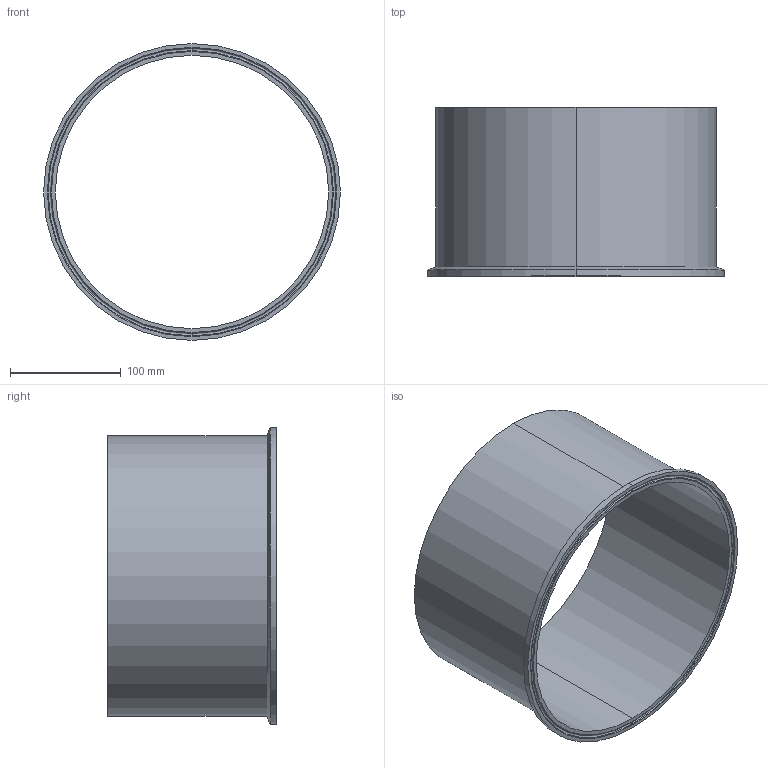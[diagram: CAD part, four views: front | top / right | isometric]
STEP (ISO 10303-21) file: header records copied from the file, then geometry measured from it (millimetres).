
FILE_DESCRIPTION (( 'STEP AP203' ), '1' );
FILE_NAME ('EG14WL10.0.STEP', '2018-05-03T13:00:48', ( 'vneprd' ), ( 'Microsoft' ), 'SwSTEP 2.0', 'SolidWorks 2014', '' );
FILE_SCHEMA (( 'CONFIG_CONTROL_DESIGN' ));
Length unit declared in the file: inch
Products named in the file (1): EG14WL10.0
Bounding box: 268.48 x 152.4 x 268.48 mm (x, y, z)
Volume: 447399.6 mm3; surface area: 256519.7 mm2
Topology: 1 solids, 1 shells, 17 faces, 34 edges, 20 vertices
Faces by surface type: cylinder 6, torus 6, plane 3, cone 2
Entity records: 533 total; most frequent: DIRECTION 96, CARTESIAN_POINT 72, ORIENTED_EDGE 68, AXIS2_PLACEMENT_3D 44, EDGE_CURVE 34, CIRCLE 26, EDGE_LOOP 20, VERTEX_POINT 20
